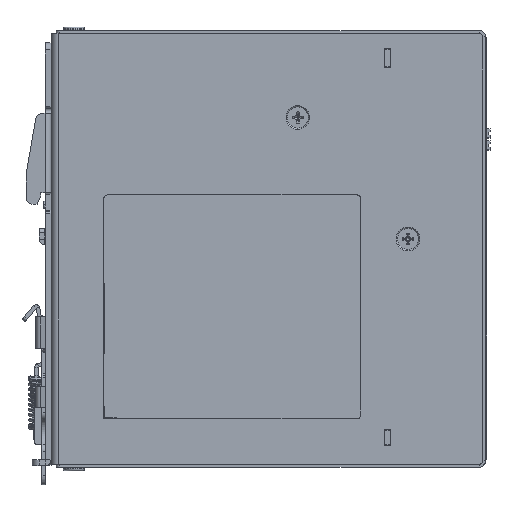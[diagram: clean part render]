
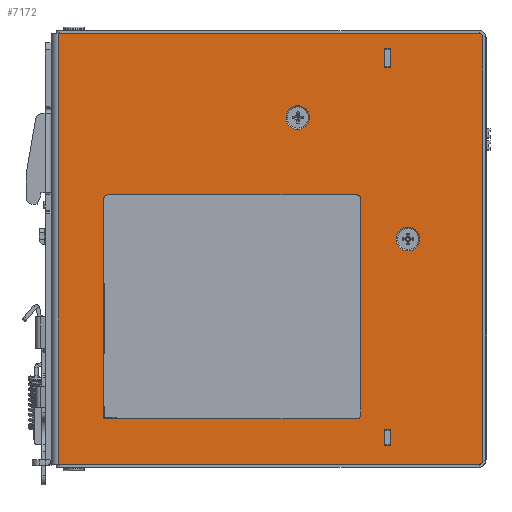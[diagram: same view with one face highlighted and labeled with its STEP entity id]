
A CAD part, top view. The second image highlights one B-rep face of the part: STEP entity #7172.
In plain terms, the highlighted planar face has unit normal (0, 0, 1).
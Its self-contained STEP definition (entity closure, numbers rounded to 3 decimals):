
#2546=DIRECTION('',(0.,-1.,0.));
#2547=VECTOR('',#2546,122.4);
#2548=CARTESIAN_POINT('',(0.5,61.2,19.));
#2549=LINE('',#2548,#2547);
#2576=CARTESIAN_POINT('',(99.9,2.8,19.));
#2577=DIRECTION('',(0.,0.,1.));
#2578=DIRECTION('',(-1.,0.,0.));
#2579=AXIS2_PLACEMENT_3D('',#2576,#2577,#2578);
#2584=CARTESIAN_POINT('',(99.9,2.8,19.));
#2585=DIRECTION('',(0.,0.,1.));
#2586=DIRECTION('',(1.,0.,0.));
#2587=AXIS2_PLACEMENT_3D('',#2584,#2585,#2586);
#2592=DIRECTION('',(-1.,0.,0.));
#2593=VECTOR('',#2592,0.2);
#2594=CARTESIAN_POINT('',(13.7,-9.7,19.));
#2595=LINE('',#2594,#2593);
#2599=DIRECTION('',(0.,-1.,0.));
#2600=VECTOR('',#2599,20.);
#2601=CARTESIAN_POINT('',(13.5,-9.7,19.));
#2602=LINE('',#2601,#2600);
#2606=DIRECTION('',(1.,0.,0.));
#2607=VECTOR('',#2606,0.2);
#2608=CARTESIAN_POINT('',(13.5,-29.7,19.));
#2609=LINE('',#2608,#2607);
#2613=DIRECTION('',(0.,1.,0.));
#2614=VECTOR('',#2613,20.);
#2615=CARTESIAN_POINT('',(13.7,-29.7,19.));
#2616=LINE('',#2615,#2614);
#2620=DIRECTION('',(0.,1.,0.));
#2621=VECTOR('',#2620,0.2);
#2622=CARTESIAN_POINT('',(17.,-48.2,19.));
#2623=LINE('',#2622,#2621);
#2627=DIRECTION('',(-1.,0.,0.));
#2628=VECTOR('',#2627,3.3);
#2629=CARTESIAN_POINT('',(17.,-48.,19.));
#2630=LINE('',#2629,#2628);
#2634=DIRECTION('',(0.,1.,0.));
#2635=VECTOR('',#2634,3.3);
#2636=CARTESIAN_POINT('',(13.7,-48.,19.));
#2637=LINE('',#2636,#2635);
#2641=DIRECTION('',(-1.,0.,0.));
#2642=VECTOR('',#2641,0.2);
#2643=CARTESIAN_POINT('',(13.7,-44.7,19.));
#2644=LINE('',#2643,#2642);
#2648=DIRECTION('',(0.,-1.,0.));
#2649=VECTOR('',#2648,3.5);
#2650=CARTESIAN_POINT('',(13.5,-44.7,19.));
#2651=LINE('',#2650,#2649);
#2655=DIRECTION('',(1.,0.,0.));
#2656=VECTOR('',#2655,3.5);
#2657=CARTESIAN_POINT('',(13.5,-48.2,19.));
#2658=LINE('',#2657,#2656);
#2662=DIRECTION('',(1.,0.,0.));
#2663=VECTOR('',#2662,1.9);
#2664=CARTESIAN_POINT('',(93.15,-51.4,19.));
#2665=LINE('',#2664,#2663);
#2669=DIRECTION('',(0.,1.,0.));
#2670=VECTOR('',#2669,4.6);
#2671=CARTESIAN_POINT('',(93.15,-56.,19.));
#2672=LINE('',#2671,#2670);
#2676=DIRECTION('',(-1.,0.,0.));
#2677=VECTOR('',#2676,1.9);
#2678=CARTESIAN_POINT('',(95.05,-56.,19.));
#2679=LINE('',#2678,#2677);
#2683=DIRECTION('',(0.,-1.,0.));
#2684=VECTOR('',#2683,4.6);
#2685=CARTESIAN_POINT('',(95.05,-51.4,19.));
#2686=LINE('',#2685,#2684);
#2690=DIRECTION('',(1.,0.,0.));
#2691=VECTOR('',#2690,1.9);
#2692=CARTESIAN_POINT('',(93.15,57.,19.));
#2693=LINE('',#2692,#2691);
#2697=DIRECTION('',(0.,1.,0.));
#2698=VECTOR('',#2697,5.6);
#2699=CARTESIAN_POINT('',(93.15,51.4,19.));
#2700=LINE('',#2699,#2698);
#2704=DIRECTION('',(-1.,0.,0.));
#2705=VECTOR('',#2704,1.9);
#2706=CARTESIAN_POINT('',(95.05,51.4,19.));
#2707=LINE('',#2706,#2705);
#2711=DIRECTION('',(0.,-1.,0.));
#2712=VECTOR('',#2711,5.6);
#2713=CARTESIAN_POINT('',(95.05,57.,19.));
#2714=LINE('',#2713,#2712);
#2718=CARTESIAN_POINT('',(68.6,37.3,19.));
#2719=DIRECTION('',(0.,0.,1.));
#2720=DIRECTION('',(-1.,0.,0.));
#2721=AXIS2_PLACEMENT_3D('',#2718,#2719,#2720);
#2726=CARTESIAN_POINT('',(68.6,37.3,19.));
#2727=DIRECTION('',(0.,0.,1.));
#2728=DIRECTION('',(1.,0.,0.));
#2729=AXIS2_PLACEMENT_3D('',#2726,#2727,#2728);
#2734=CARTESIAN_POINT('',(120.1,60.2,19.));
#2735=DIRECTION('',(0.,0.,1.));
#2736=DIRECTION('',(1.,0.,0.));
#2737=AXIS2_PLACEMENT_3D('',#2734,#2735,#2736);
#2742=DIRECTION('',(0.,1.,0.));
#2743=VECTOR('',#2742,120.4);
#2744=CARTESIAN_POINT('',(121.1,-60.2,19.));
#2745=LINE('',#2744,#2743);
#2749=CARTESIAN_POINT('',(120.1,-60.2,19.));
#2750=DIRECTION('',(0.,0.,1.));
#2751=DIRECTION('',(0.,-1.,0.));
#2752=AXIS2_PLACEMENT_3D('',#2749,#2750,#2751);
#2757=DIRECTION('',(1.,0.,0.));
#2758=VECTOR('',#2757,40.1);
#2759=CARTESIAN_POINT('',(80.,-61.2,19.));
#2760=LINE('',#2759,#2758);
#2764=DIRECTION('',(1.,0.,0.));
#2765=VECTOR('',#2764,11.5);
#2766=CARTESIAN_POINT('',(68.5,-61.2,19.));
#2767=LINE('',#2766,#2765);
#2771=DIRECTION('',(1.,0.,0.));
#2772=VECTOR('',#2771,68.);
#2773=CARTESIAN_POINT('',(0.5,-61.2,19.));
#2774=LINE('',#2773,#2772);
#2778=DIRECTION('',(-1.,0.,0.));
#2779=VECTOR('',#2778,119.6);
#2780=CARTESIAN_POINT('',(120.1,61.2,19.));
#2781=LINE('',#2780,#2779);
#4391=CARTESIAN_POINT('',(0.5,61.2,19.));
#4392=CARTESIAN_POINT('',(0.5,-61.2,19.));
#4393=VERTEX_POINT('',#4391);
#4394=VERTEX_POINT('',#4392);
#4883=CARTESIAN_POINT('',(96.55,2.8,19.));
#4884=CARTESIAN_POINT('',(103.25,2.8,19.));
#4885=VERTEX_POINT('',#4883);
#4886=VERTEX_POINT('',#4884);
#4911=CARTESIAN_POINT('',(13.7,-9.7,19.));
#4912=CARTESIAN_POINT('',(13.5,-9.7,19.));
#4913=VERTEX_POINT('',#4911);
#4914=VERTEX_POINT('',#4912);
#4915=CARTESIAN_POINT('',(13.5,-29.7,19.));
#4916=VERTEX_POINT('',#4915);
#4917=CARTESIAN_POINT('',(13.7,-29.7,19.));
#4918=VERTEX_POINT('',#4917);
#4919=CARTESIAN_POINT('',(17.,-48.2,19.));
#4920=CARTESIAN_POINT('',(17.,-48.,19.));
#4921=VERTEX_POINT('',#4919);
#4922=VERTEX_POINT('',#4920);
#4923=CARTESIAN_POINT('',(13.7,-48.,19.));
#4924=VERTEX_POINT('',#4923);
#4925=CARTESIAN_POINT('',(13.7,-44.7,19.));
#4926=VERTEX_POINT('',#4925);
#4927=CARTESIAN_POINT('',(13.5,-44.7,19.));
#4928=VERTEX_POINT('',#4927);
#4929=CARTESIAN_POINT('',(13.5,-48.2,19.));
#4930=VERTEX_POINT('',#4929);
#4983=CARTESIAN_POINT('',(65.25,37.3,19.));
#4984=VERTEX_POINT('',#4983);
#4985=CARTESIAN_POINT('',(71.95,37.3,19.));
#4986=VERTEX_POINT('',#4985);
#4999=CARTESIAN_POINT('',(93.15,57.,19.));
#5000=CARTESIAN_POINT('',(95.05,57.,19.));
#5001=VERTEX_POINT('',#4999);
#5002=VERTEX_POINT('',#5000);
#5003=CARTESIAN_POINT('',(95.05,51.4,19.));
#5004=VERTEX_POINT('',#5003);
#5005=CARTESIAN_POINT('',(93.15,51.4,19.));
#5006=VERTEX_POINT('',#5005);
#5007=CARTESIAN_POINT('',(68.5,-61.2,19.));
#5008=CARTESIAN_POINT('',(80.,-61.2,19.));
#5009=VERTEX_POINT('',#5007);
#5010=VERTEX_POINT('',#5008);
#5063=CARTESIAN_POINT('',(121.1,60.2,19.));
#5064=CARTESIAN_POINT('',(120.1,61.2,19.));
#5065=VERTEX_POINT('',#5063);
#5066=VERTEX_POINT('',#5064);
#5079=CARTESIAN_POINT('',(120.1,-61.2,19.));
#5080=CARTESIAN_POINT('',(121.1,-60.2,19.));
#5081=VERTEX_POINT('',#5079);
#5082=VERTEX_POINT('',#5080);
#5103=CARTESIAN_POINT('',(93.15,-51.4,19.));
#5104=CARTESIAN_POINT('',(95.05,-51.4,19.));
#5105=VERTEX_POINT('',#5103);
#5106=VERTEX_POINT('',#5104);
#5107=CARTESIAN_POINT('',(95.05,-56.,19.));
#5108=VERTEX_POINT('',#5107);
#5109=CARTESIAN_POINT('',(93.15,-56.,19.));
#5110=VERTEX_POINT('',#5109);
#7094=CARTESIAN_POINT('',(-1.5,-61.2,19.));
#7095=DIRECTION('',(0.,0.,1.));
#7096=DIRECTION('',(0.,-1.,0.));
#7097=AXIS2_PLACEMENT_3D('',#7094,#7095,#7096);
#7098=PLANE('',#7097);
#7100=ORIENTED_EDGE('',*,*,#7099,.F.);
#7102=ORIENTED_EDGE('',*,*,#7101,.F.);
#7104=ORIENTED_EDGE('',*,*,#7103,.F.);
#7106=ORIENTED_EDGE('',*,*,#7105,.F.);
#7108=ORIENTED_EDGE('',*,*,#7107,.F.);
#7110=ORIENTED_EDGE('',*,*,#7109,.F.);
#7111=ORIENTED_EDGE('',*,*,#7085,.F.);
#7113=ORIENTED_EDGE('',*,*,#7112,.F.);
#7114=EDGE_LOOP('',(#7100,#7102,#7104,#7106,#7108,#7110,#7111,#7113));
#7115=FACE_OUTER_BOUND('',#7114,.F.);
#7117=ORIENTED_EDGE('',*,*,#7116,.T.);
#7119=ORIENTED_EDGE('',*,*,#7118,.T.);
#7121=ORIENTED_EDGE('',*,*,#7120,.T.);
#7123=ORIENTED_EDGE('',*,*,#7122,.T.);
#7124=EDGE_LOOP('',(#7117,#7119,#7121,#7123));
#7125=FACE_BOUND('',#7124,.F.);
#7127=ORIENTED_EDGE('',*,*,#7126,.T.);
#7129=ORIENTED_EDGE('',*,*,#7128,.T.);
#7131=ORIENTED_EDGE('',*,*,#7130,.T.);
#7133=ORIENTED_EDGE('',*,*,#7132,.T.);
#7135=ORIENTED_EDGE('',*,*,#7134,.T.);
#7137=ORIENTED_EDGE('',*,*,#7136,.T.);
#7138=EDGE_LOOP('',(#7127,#7129,#7131,#7133,#7135,#7137));
#7139=FACE_BOUND('',#7138,.F.);
#7141=ORIENTED_EDGE('',*,*,#7140,.F.);
#7143=ORIENTED_EDGE('',*,*,#7142,.F.);
#7145=ORIENTED_EDGE('',*,*,#7144,.F.);
#7147=ORIENTED_EDGE('',*,*,#7146,.F.);
#7148=EDGE_LOOP('',(#7141,#7143,#7145,#7147));
#7149=FACE_BOUND('',#7148,.F.);
#7151=ORIENTED_EDGE('',*,*,#7150,.F.);
#7153=ORIENTED_EDGE('',*,*,#7152,.F.);
#7155=ORIENTED_EDGE('',*,*,#7154,.F.);
#7157=ORIENTED_EDGE('',*,*,#7156,.F.);
#7158=EDGE_LOOP('',(#7151,#7153,#7155,#7157));
#7159=FACE_BOUND('',#7158,.F.);
#7161=ORIENTED_EDGE('',*,*,#7160,.T.);
#7163=ORIENTED_EDGE('',*,*,#7162,.T.);
#7164=EDGE_LOOP('',(#7161,#7163));
#7165=FACE_BOUND('',#7164,.F.);
#7167=ORIENTED_EDGE('',*,*,#7166,.T.);
#7169=ORIENTED_EDGE('',*,*,#7168,.T.);
#7170=EDGE_LOOP('',(#7167,#7169));
#7171=FACE_BOUND('',#7170,.F.);
#7172=ADVANCED_FACE('',(#7115,#7125,#7139,#7149,#7159,#7165,#7171),#7098,.T.);
#2580=CIRCLE('',#2579,3.35);
#2588=CIRCLE('',#2587,3.35);
#2722=CIRCLE('',#2721,3.35);
#2730=CIRCLE('',#2729,3.35);
#2738=CIRCLE('',#2737,1.);
#2753=CIRCLE('',#2752,1.);
#7085=EDGE_CURVE('',#4393,#4394,#2549,.T.);
#7099=EDGE_CURVE('',#5065,#5066,#2738,.T.);
#7101=EDGE_CURVE('',#5082,#5065,#2745,.T.);
#7103=EDGE_CURVE('',#5081,#5082,#2753,.T.);
#7105=EDGE_CURVE('',#5010,#5081,#2760,.T.);
#7107=EDGE_CURVE('',#5009,#5010,#2767,.T.);
#7109=EDGE_CURVE('',#4394,#5009,#2774,.T.);
#7112=EDGE_CURVE('',#5066,#4393,#2781,.T.);
#7116=EDGE_CURVE('',#4913,#4914,#2595,.T.);
#7118=EDGE_CURVE('',#4914,#4916,#2602,.T.);
#7120=EDGE_CURVE('',#4916,#4918,#2609,.T.);
#7122=EDGE_CURVE('',#4918,#4913,#2616,.T.);
#7126=EDGE_CURVE('',#4921,#4922,#2623,.T.);
#7128=EDGE_CURVE('',#4922,#4924,#2630,.T.);
#7130=EDGE_CURVE('',#4924,#4926,#2637,.T.);
#7132=EDGE_CURVE('',#4926,#4928,#2644,.T.);
#7134=EDGE_CURVE('',#4928,#4930,#2651,.T.);
#7136=EDGE_CURVE('',#4930,#4921,#2658,.T.);
#7140=EDGE_CURVE('',#5105,#5106,#2665,.T.);
#7142=EDGE_CURVE('',#5110,#5105,#2672,.T.);
#7144=EDGE_CURVE('',#5108,#5110,#2679,.T.);
#7146=EDGE_CURVE('',#5106,#5108,#2686,.T.);
#7150=EDGE_CURVE('',#5001,#5002,#2693,.T.);
#7152=EDGE_CURVE('',#5006,#5001,#2700,.T.);
#7154=EDGE_CURVE('',#5004,#5006,#2707,.T.);
#7156=EDGE_CURVE('',#5002,#5004,#2714,.T.);
#7160=EDGE_CURVE('',#4984,#4986,#2722,.T.);
#7162=EDGE_CURVE('',#4986,#4984,#2730,.T.);
#7166=EDGE_CURVE('',#4885,#4886,#2580,.T.);
#7168=EDGE_CURVE('',#4886,#4885,#2588,.T.);
